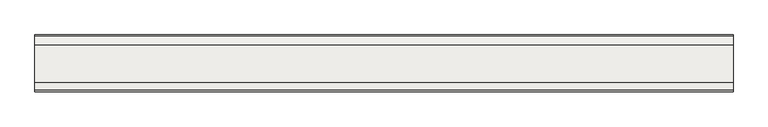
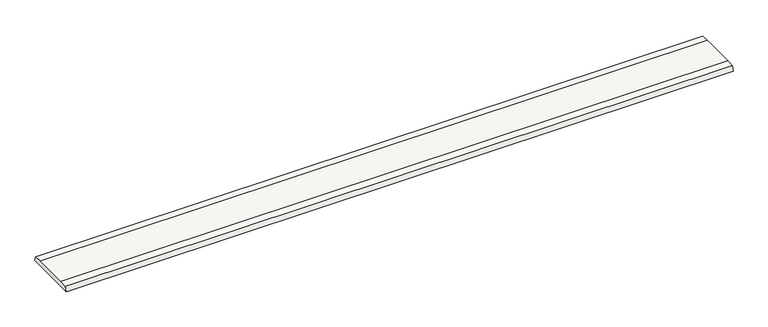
"""IFC4 building model written with IfcOpenShell, lengths in millimetres: slab geometry, ROSA GRES_I25_Inclinación : Pieza I25_Tresor_Java_Anti-Slip."""

from ifc_helpers import new_model, si_unit, point, frame, frame_2d, origin, place, context, project, spatial, polyline, circle_curve, trimmed, segment, composite_curve, outline, extrude, source, transform, mapped, element, save


def slab_a260efd0(model_context):
    return source(origin(), model_context, "Body", "SweptSolid", [
        extrude(outline(composite_curve([segment(polyline([(242.0848264, 22.0203494), (248.9615625, 0.0), (0.0, 0.0), (6.8503894, 21.9708993)]), True, "CONTINUOUS"), segment(trimmed(circle_curve(frame_2d((86.2847076, -695.1998883)), 721.556477), [point((6.8503894, 21.9708993))], [point((42.7380732, 25.0413492))], False, "CARTESIAN"), True, "CONTINUOUS"), segment(polyline([(42.7380732, 25.0413492), (206.6448784, 25.0413492)]), True, "CONTINUOUS"), segment(trimmed(circle_curve(frame_2d((163.0982439, -695.1998883)), 721.556477), [point((206.6448784, 25.0413492))], [point((242.0848264, 22.0203494))], False, "CARTESIAN"), True, "CONTINUOUS")], self_intersect=False)), frame((0.0, 0.0, 0.0), z_axis=(1.0, 0.0, 0.0), x_axis=(0.0, 1.0, 0.0)), (0.0, 0.0, 1.0), 3050.9302698),
    ])


if __name__ == "__main__":
    model = new_model("IFC4")
    model_context = context("Model", 3, world=origin())
    ifc_project = project(units=[si_unit("LENGTHUNIT", "METRE", prefix="MILLI")], contexts=[model_context])
    site = spatial("IfcSite", under=ifc_project)
    building = spatial("IfcBuilding", under=site)
    placement = place(None, origin())
    slab_shape = slab_a260efd0(model_context)
    element("IfcSlab", 1, ObjectType="ROSA GRES_I25_Inclinación : Pieza I25_Tresor_Java_Anti-Slip", at=placement, inside=building, context=model_context, shape_type="MappedRepresentation", body=[
        mapped(slab_shape, transform((0.0, 0.0, 0.0), x_axis=(1.0, 0.0, 0.0), y_axis=(0.0, 1.0, 0.0), z_axis=(0.0, 0.0, 1.0))),
    ])
    save(model, "model.ifc")
